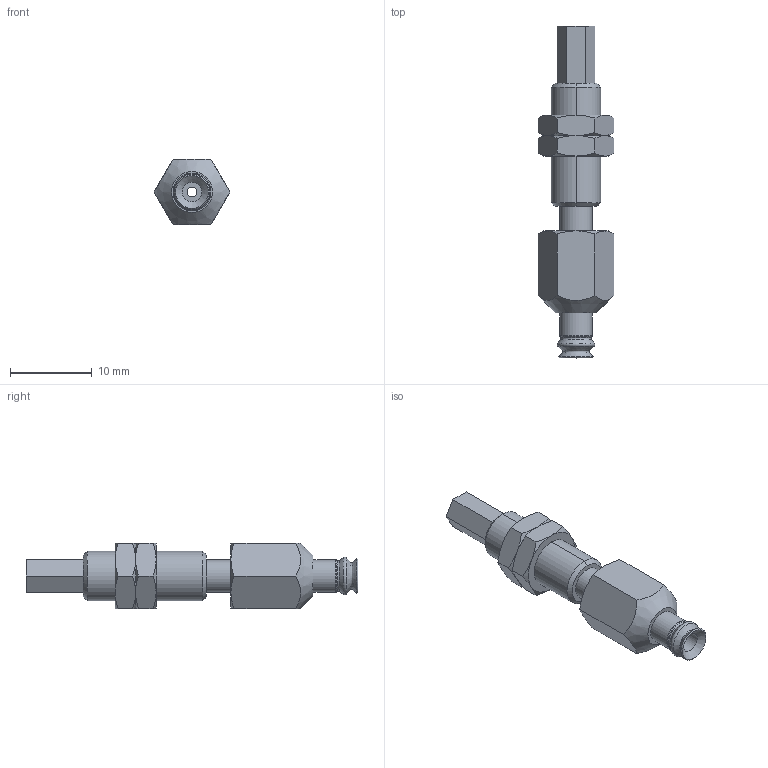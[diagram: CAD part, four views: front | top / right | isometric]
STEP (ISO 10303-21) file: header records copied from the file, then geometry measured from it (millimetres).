
FILE_DESCRIPTION(('STEP AP203'),'1');
FILE_NAME('.stp','2025-08-27T07:01:17',(' '),(' '),'Spatial InterOp 3D',' ',' ');
FILE_SCHEMA(('CONFIG_CONTROL_DESIGN'));
Length unit declared in the file: millimetre
Products named in the file (6): BNABPJTS-4-3-※; ADAPTER; NAPFTS-2A-3-MBODY; _Nut_1_5A_3_s; _NAPFTS_1_5A_3_FBODY; BPJG-4-※
Assembly tree (6 placements, depth 2):
  BNABPJTS-4-3-※
    ADAPTER
    NAPFTS-2A-3-MBODY
    _Nut_1_5A_3_s  x2
    _NAPFTS_1_5A_3_FBODY
    BPJG-4-※
Bounding box: 9.24 x 40.5 x 8 mm (x, y, z)
Volume: 1236.5 mm3; surface area: 1840.2 mm2
Topology: 6 solids, 6 shells, 123 faces, 266 edges, 158 vertices
Faces by surface type: cone 51, plane 45, cylinder 18, torus 9
Full cylindrical faces by diameter (mm): 1.2 x2, 2 x2, 2.4 x1, 2.459 x1, 3 x2, 4 x2
Entity records: 2732 total; most frequent: CARTESIAN_POINT 510, DIRECTION 416, ORIENTED_EDGE 342, AXIS2_PLACEMENT_3D 183, EDGE_CURVE 171, EDGE_LOOP 138, FACE_OUTER_BOUND 116, VERTEX_POINT 115
